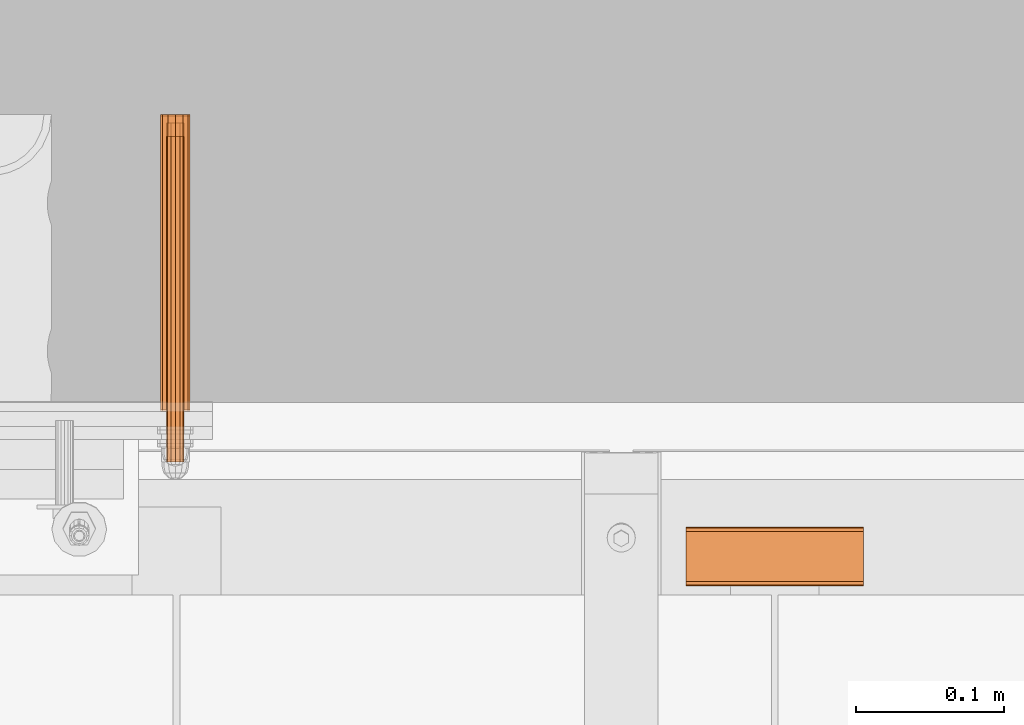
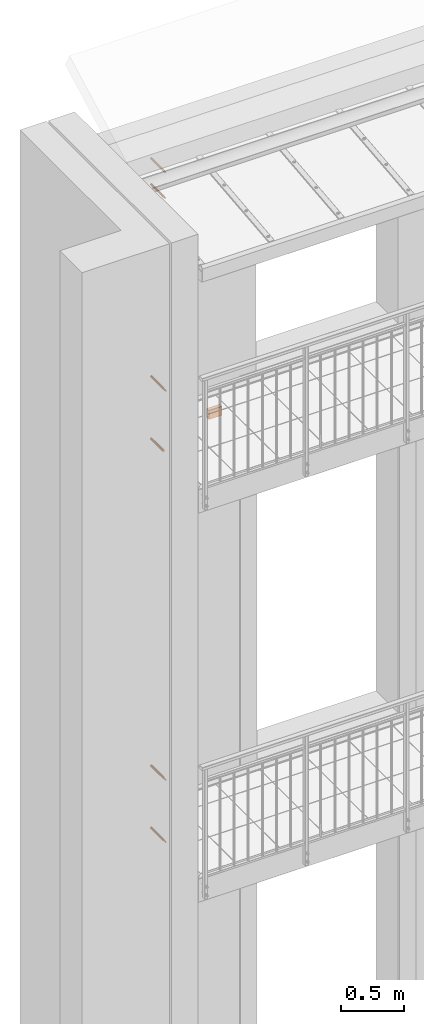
# One storey, part 95 of 162: 12 proxies.
"""IFC2X3 building model written with IfcOpenShell, lengths in millimetres."""

from ifc_helpers import new_model, entity, si_unit, converted_unit, origin_with_axes, place, context, project, spatial, faceted_brep, material, element, save


model = new_model("IFC2X3")

# Units and contexts
model_context = context("Model", 3, precision=1e-09, world=origin_with_axes())
ifc_project = project(units=[si_unit("LENGTHUNIT", "METRE", prefix="MILLI"), si_unit("AREAUNIT", "SQUARE_METRE"), si_unit("VOLUMEUNIT", "CUBIC_METRE"), converted_unit("PLANEANGLEUNIT", "DEGREE", entity("IfcPlaneAngleMeasure", 0.01745329), si_unit("PLANEANGLEUNIT", "RADIAN"), dimensions=[0, 0, 0, 0, 0, 0, 0])], contexts=[model_context])

# Site, building, storey
site_placement = place(None, origin_with_axes())
site = spatial("IfcSite", under=ifc_project, at=site_placement, Name="Hermannstra?e 1a, 60318 Frankfurt", CompositionType="ELEMENT")
building_placement = place(site_placement, origin_with_axes())
building = spatial("IfcBuilding", under=site, at=building_placement, Name="Struktur 1", CompositionType="ELEMENT")
storey_placement = place(building_placement, origin_with_axes())
storey = spatial("IfcBuildingStorey", under=building, at=storey_placement, Name="Default Storey", CompositionType="ELEMENT", Elevation=0.0)

# Proxies
ifc_material_1 = material(Name="Alu")
proxy_1_placement = place(None, origin_with_axes())
element("IfcBuildingElementProxy", 1, at=proxy_1_placement, inside=storey, material=ifc_material_1, ObjectType="-", context=model_context, shape_type="Brep", body=[
    faceted_brep([(3393.55936482, 2612.413221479, 15014.999), (3393.55936482, 2614.609373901, 15012.802847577), (3393.55936482, 2617.609373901, 15011.999), (3393.55936482, 2645.609373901, 15011.999), (3393.55936482, 2648.609373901, 15012.802847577), (3393.55936482, 2650.805526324, 15014.999), (3393.55936482, 2651.609373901, 15017.999), (3393.55936482, 2651.609373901, 15095.999), (3393.55936482, 2650.805526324, 15098.999), (3393.55936482, 2648.609373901, 15101.195152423), (3393.55936482, 2645.609373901, 15101.999), (3393.55936482, 2617.609373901, 15101.999), (3393.55936482, 2614.609373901, 15101.195152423), (3393.55936482, 2612.413221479, 15098.999), (3393.55936482, 2611.609373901, 15095.999), (3393.55936482, 2611.609373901, 15017.999), (3393.55936482, 2614.609373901, 15017.999), (3393.55936482, 2614.609373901, 15095.999), (3393.55936482, 2615.01129769, 15097.499), (3393.55936482, 2616.109373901, 15098.597076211), (3393.55936482, 2617.609373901, 15098.999), (3393.55936482, 2645.609373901, 15098.999), (3393.55936482, 2647.109373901, 15098.597076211), (3393.55936482, 2648.207450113, 15097.499), (3393.55936482, 2648.609373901, 15095.999), (3393.55936482, 2648.609373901, 15017.999), (3393.55936482, 2648.207450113, 15016.499), (3393.55936482, 2647.109373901, 15015.400923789), (3393.55936482, 2645.609373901, 15014.999), (3393.55936482, 2617.609373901, 15014.999), (3393.55936482, 2616.109373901, 15015.400923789), (3393.55936482, 2615.01129769, 15016.499), (3273.55936482, 2614.609373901, 15017.999), (3273.55936482, 2615.01129769, 15016.499), (3273.55936482, 2611.609373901, 15017.999), (3273.55936482, 2612.413221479, 15014.999), (3273.55936482, 2611.609373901, 15095.999), (3273.55936482, 2612.413221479, 15098.999), (3273.55936482, 2614.609373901, 15101.195152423), (3273.55936482, 2617.609373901, 15101.999), (3273.55936482, 2645.609373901, 15101.999), (3273.55936482, 2648.609373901, 15101.195152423), (3273.55936482, 2650.805526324, 15098.999), (3273.55936482, 2651.609373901, 15095.999), (3273.55936482, 2651.609373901, 15017.999), (3273.55936482, 2650.805526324, 15014.999), (3273.55936482, 2648.609373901, 15012.802847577), (3273.55936482, 2645.609373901, 15011.999), (3273.55936482, 2617.609373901, 15011.999), (3273.55936482, 2614.609373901, 15012.802847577), (3273.55936482, 2614.609373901, 15095.999), (3273.55936482, 2616.109373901, 15015.400923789), (3273.55936482, 2617.609373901, 15014.999), (3273.55936482, 2645.609373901, 15014.999), (3273.55936482, 2647.109373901, 15015.400923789), (3273.55936482, 2648.207450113, 15016.499), (3273.55936482, 2648.609373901, 15017.999), (3273.55936482, 2648.609373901, 15095.999), (3273.55936482, 2648.207450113, 15097.499), (3273.55936482, 2647.109373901, 15098.597076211), (3273.55936482, 2645.609373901, 15098.999), (3273.55936482, 2617.609373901, 15098.999), (3273.55936482, 2616.109373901, 15098.597076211), (3273.55936482, 2615.01129769, 15097.499)], [[[0, 1, 2, 3, 4, 5, 6, 7, 8, 9, 10, 11, 12, 13, 14, 15], [16, 17, 18, 19, 20, 21, 22, 23, 24, 25, 26, 27, 28, 29, 30, 31]], [[32, 16, 31, 33]], [[15, 34, 35, 0]], [[36, 37, 38, 39, 40, 41, 42, 43, 44, 45, 46, 47, 48, 49, 35, 34], [50, 32, 33, 51, 52, 53, 54, 55, 56, 57, 58, 59, 60, 61, 62, 63]], [[17, 16, 32, 50]], [[36, 34, 15, 14]], [[36, 14, 13, 37]], [[33, 31, 30, 51]], [[0, 35, 49, 1]], [[17, 50, 63, 18]], [[37, 13, 12, 38]], [[51, 30, 29, 52]], [[1, 49, 48, 2]], [[18, 63, 62, 19]], [[38, 12, 11, 39]], [[53, 52, 29, 28]], [[3, 2, 48, 47]], [[19, 62, 61, 20]], [[40, 39, 11, 10]], [[21, 20, 61, 60]], [[53, 28, 27, 54]], [[3, 47, 46, 4]], [[40, 10, 9, 41]], [[21, 60, 59, 22]], [[54, 27, 26, 55]], [[4, 46, 45, 5]], [[44, 6, 5, 45]], [[41, 9, 8, 42]], [[22, 59, 58, 23]], [[55, 26, 25, 56]], [[7, 6, 44, 43]], [[57, 24, 23, 58]], [[25, 24, 57, 56]], [[42, 8, 7, 43]]]),
])
ifc_material_2 = material(Name="A4")
proxy_2_placement = place(None, origin_with_axes())
element("IfcBuildingElementProxy", 2, at=proxy_2_placement, inside=storey, material=ifc_material_2, ObjectType="-", context=model_context, shape_type="Brep", body=[
    faceted_brep([(2928.309364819, 2924.609373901, 17460.999), (2928.309364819, 2704.609373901, 17460.999), (2925.309364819, 2704.609373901, 17461.802847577), (2925.309364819, 2924.609373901, 17461.802847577), (2931.309364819, 2924.609373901, 17461.802847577), (2931.309364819, 2704.609373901, 17461.802847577), (2933.505517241, 2704.609373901, 17469.999), (2931.309364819, 2704.609373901, 17472.195152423), (2928.309364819, 2704.609373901, 17472.999), (2925.309364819, 2704.609373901, 17472.195152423), (2923.113212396, 2704.609373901, 17469.999), (2922.309364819, 2704.609373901, 17466.999), (2923.113212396, 2704.609373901, 17463.999), (2933.505517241, 2704.609373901, 17463.999), (2934.309364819, 2704.609373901, 17466.999), (2923.113212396, 2924.609373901, 17469.999), (2925.309364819, 2924.609373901, 17472.195152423), (2928.309364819, 2924.609373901, 17472.999), (2931.309364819, 2924.609373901, 17472.195152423), (2933.505517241, 2924.609373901, 17469.999), (2934.309364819, 2924.609373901, 17466.999), (2933.505517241, 2924.609373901, 17463.999), (2923.113212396, 2924.609373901, 17463.999), (2922.309364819, 2924.609373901, 17466.999)], [[[0, 1, 2, 3]], [[1, 0, 4, 5]], [[6, 7, 8, 9, 10, 11, 12, 2, 1, 5, 13, 14]], [[15, 16, 17, 18, 19, 20, 21, 4, 0, 3, 22, 23]], [[3, 2, 12, 22]], [[5, 4, 21, 13]], [[11, 23, 22, 12]], [[10, 15, 23, 11]], [[13, 21, 20, 14]], [[16, 9, 8, 17]], [[15, 10, 9, 16]], [[17, 8, 7, 18]], [[14, 20, 19, 6]], [[18, 7, 6, 19]]]),
])
ifc_material_3 = material(Name="Kunststoff")
proxy_3_placement = place(None, origin_with_axes())
element("IfcBuildingElementProxy", 3, at=proxy_3_placement, inside=storey, material=ifc_material_3, ObjectType="-", context=model_context, shape_type="Brep", body=[
    faceted_brep([(2919.649110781, 2929.609373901, 17471.999), (2923.309364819, 2929.609373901, 17475.659254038), (2928.309364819, 2929.609373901, 17476.999), (2933.309364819, 2929.609373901, 17475.659254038), (2936.969618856, 2929.609373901, 17471.999), (2938.309364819, 2929.609373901, 17466.999), (2936.969618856, 2929.609373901, 17461.999), (2933.309364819, 2929.609373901, 17458.338745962), (2928.309364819, 2929.609373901, 17456.999), (2923.309364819, 2929.609373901, 17458.338745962), (2919.649110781, 2929.609373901, 17461.999), (2918.309364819, 2929.609373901, 17466.999), (2928.309364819, 2729.609373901, 17456.999), (2923.309364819, 2729.609373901, 17458.338745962), (2933.309364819, 2729.609373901, 17458.338745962), (2936.969618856, 2729.609373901, 17461.999), (2936.969618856, 2729.609373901, 17471.999), (2933.309364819, 2729.609373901, 17475.659254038), (2938.309364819, 2729.609373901, 17466.999), (2928.309364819, 2729.609373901, 17476.999), (2923.309364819, 2729.609373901, 17475.659254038), (2919.649110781, 2729.609373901, 17471.999), (2918.309364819, 2729.609373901, 17466.999), (2919.649110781, 2729.609373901, 17461.999), (2932.559364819, 2729.609373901, 17474.360215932), (2935.670580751, 2729.609373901, 17471.249), (2936.809364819, 2729.609373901, 17466.999), (2935.670580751, 2729.609373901, 17462.749), (2932.559364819, 2729.609373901, 17459.637784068), (2928.309364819, 2729.609373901, 17458.499), (2924.059364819, 2729.609373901, 17459.637784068), (2920.948148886, 2729.609373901, 17462.749), (2919.809364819, 2729.609373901, 17466.999), (2920.948148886, 2729.609373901, 17471.249), (2924.059364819, 2729.609373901, 17474.360215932), (2928.309364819, 2729.609373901, 17475.499), (2932.559364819, 2927.609373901, 17474.360215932), (2928.309364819, 2927.609373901, 17475.499), (2935.670580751, 2927.609373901, 17471.249), (2928.309364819, 2927.609373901, 17458.499), (2924.059364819, 2927.609373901, 17459.637784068), (2932.559364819, 2927.609373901, 17459.637784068), (2920.948148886, 2927.609373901, 17462.749), (2935.670580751, 2927.609373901, 17462.749), (2936.809364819, 2927.609373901, 17466.999), (2924.059364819, 2927.609373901, 17474.360215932), (2920.948148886, 2927.609373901, 17471.249), (2919.809364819, 2927.609373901, 17466.999)], [[[0, 1, 2, 3, 4, 5, 6, 7, 8, 9, 10, 11]], [[8, 12, 13, 9]], [[7, 14, 12, 8]], [[6, 15, 14, 7]], [[16, 4, 3, 17]], [[5, 18, 15, 6]], [[17, 3, 2, 19]], [[18, 16, 17, 19, 20, 21, 22, 23, 13, 12, 14, 15], [24, 25, 26, 27, 28, 29, 30, 31, 32, 33, 34, 35]], [[18, 5, 4, 16]], [[9, 13, 23, 10]], [[19, 2, 1, 20]], [[36, 24, 35, 37]], [[24, 36, 38, 25]], [[29, 39, 40, 30]], [[39, 29, 28, 41]], [[42, 40, 39, 41, 43, 44, 38, 36, 37, 45, 46, 47]], [[10, 23, 22, 11]], [[20, 1, 0, 21]], [[37, 35, 34, 45]], [[27, 43, 41, 28]], [[26, 44, 43, 27]], [[25, 38, 44, 26]], [[11, 22, 21, 0]], [[30, 40, 42, 31]], [[45, 34, 33, 46]], [[31, 42, 47, 32]], [[46, 33, 32, 47]]]),
])
proxy_4_placement = place(None, origin_with_axes())
element("IfcBuildingElementProxy", 4, at=proxy_4_placement, inside=storey, material=ifc_material_2, ObjectType="-", context=model_context, shape_type="Brep", body=[
    faceted_brep([(2928.309364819, 2704.609373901, 17222.999), (2928.309364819, 2924.609373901, 17222.999), (2925.309364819, 2924.609373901, 17222.195152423), (2925.309364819, 2704.609373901, 17222.195152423), (2931.309364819, 2704.609373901, 17222.195152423), (2931.309364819, 2924.609373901, 17222.195152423), (2931.309364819, 2704.609373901, 17211.802847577), (2933.505517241, 2704.609373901, 17213.999), (2934.309364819, 2704.609373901, 17216.999), (2933.505517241, 2704.609373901, 17219.999), (2923.113212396, 2704.609373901, 17219.999), (2922.309364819, 2704.609373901, 17216.999), (2923.113212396, 2704.609373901, 17213.999), (2925.309364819, 2704.609373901, 17211.802847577), (2928.309364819, 2704.609373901, 17210.999), (2925.309364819, 2924.609373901, 17211.802847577), (2923.113212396, 2924.609373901, 17213.999), (2922.309364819, 2924.609373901, 17216.999), (2923.113212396, 2924.609373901, 17219.999), (2933.505517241, 2924.609373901, 17219.999), (2934.309364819, 2924.609373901, 17216.999), (2933.505517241, 2924.609373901, 17213.999), (2931.309364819, 2924.609373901, 17211.802847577), (2928.309364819, 2924.609373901, 17210.999)], [[[0, 1, 2, 3]], [[1, 0, 4, 5]], [[6, 7, 8, 9, 4, 0, 3, 10, 11, 12, 13, 14]], [[15, 16, 17, 18, 2, 1, 5, 19, 20, 21, 22, 23]], [[3, 2, 18, 10]], [[5, 4, 9, 19]], [[17, 11, 10, 18]], [[16, 12, 11, 17]], [[19, 9, 8, 20]], [[13, 15, 23, 14]], [[12, 16, 15, 13]], [[14, 23, 22, 6]], [[20, 8, 7, 21]], [[6, 22, 21, 7]]]),
])
proxy_5_placement = place(None, origin_with_axes())
element("IfcBuildingElementProxy", 5, at=proxy_5_placement, inside=storey, material=ifc_material_3, ObjectType="-", context=model_context, shape_type="Brep", body=[
    faceted_brep([(2923.309364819, 2929.609373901, 17208.338745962), (2919.649110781, 2929.609373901, 17211.999), (2918.309364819, 2929.609373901, 17216.999), (2919.649110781, 2929.609373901, 17221.999), (2923.309364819, 2929.609373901, 17225.659254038), (2928.309364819, 2929.609373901, 17226.999), (2933.309364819, 2929.609373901, 17225.659254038), (2936.969618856, 2929.609373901, 17221.999), (2938.309364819, 2929.609373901, 17216.999), (2936.969618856, 2929.609373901, 17211.999), (2933.309364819, 2929.609373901, 17208.338745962), (2928.309364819, 2929.609373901, 17206.999), (2928.309364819, 2729.609373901, 17226.999), (2923.309364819, 2729.609373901, 17225.659254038), (2933.309364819, 2729.609373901, 17225.659254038), (2936.969618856, 2729.609373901, 17221.999), (2936.969618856, 2729.609373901, 17211.999), (2933.309364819, 2729.609373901, 17208.338745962), (2938.309364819, 2729.609373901, 17216.999), (2928.309364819, 2729.609373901, 17206.999), (2919.649110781, 2729.609373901, 17221.999), (2918.309364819, 2729.609373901, 17216.999), (2919.649110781, 2729.609373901, 17211.999), (2923.309364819, 2729.609373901, 17208.338745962), (2932.559364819, 2729.609373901, 17209.637784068), (2932.559364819, 2927.609373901, 17209.637784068), (2928.309364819, 2927.609373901, 17208.499), (2928.309364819, 2729.609373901, 17208.499), (2935.670580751, 2729.609373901, 17212.749), (2935.670580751, 2927.609373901, 17212.749), (2928.309364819, 2927.609373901, 17225.499), (2928.309364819, 2729.609373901, 17225.499), (2924.059364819, 2729.609373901, 17224.360215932), (2924.059364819, 2927.609373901, 17224.360215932), (2932.559364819, 2927.609373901, 17224.360215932), (2932.559364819, 2729.609373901, 17224.360215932), (2920.948148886, 2927.609373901, 17221.249), (2919.809364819, 2927.609373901, 17216.999), (2920.948148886, 2927.609373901, 17212.749), (2924.059364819, 2927.609373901, 17209.637784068), (2936.809364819, 2927.609373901, 17216.999), (2935.670580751, 2927.609373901, 17221.249), (2924.059364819, 2729.609373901, 17209.637784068), (2935.670580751, 2729.609373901, 17221.249), (2936.809364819, 2729.609373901, 17216.999), (2920.948148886, 2729.609373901, 17221.249), (2920.948148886, 2729.609373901, 17212.749), (2919.809364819, 2729.609373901, 17216.999)], [[[0, 1, 2, 3, 4, 5, 6, 7, 8, 9, 10, 11]], [[12, 5, 4, 13]], [[14, 6, 5, 12]], [[15, 7, 6, 14]], [[9, 16, 17, 10]], [[18, 8, 7, 15]], [[10, 17, 19, 11]], [[16, 18, 15, 14, 12, 13, 20, 21, 22, 23, 19, 17]], [[8, 18, 16, 9]], [[13, 4, 3, 20]], [[11, 19, 23, 0]], [[24, 25, 26, 27]], [[25, 24, 28, 29]], [[30, 31, 32, 33]], [[31, 30, 34, 35]], [[33, 36, 37, 38, 39, 26, 25, 29, 40, 41, 34, 30]], [[20, 3, 2, 21]], [[0, 23, 22, 1]], [[27, 26, 39, 42]], [[41, 43, 35, 34]], [[40, 44, 43, 41]], [[29, 28, 44, 40]], [[21, 2, 1, 22]], [[33, 32, 45, 36]], [[42, 39, 38, 46]], [[36, 45, 47, 37]], [[46, 38, 37, 47]]]),
])
proxy_6_placement = place(None, origin_with_axes())
element("IfcBuildingElementProxy", 6, at=proxy_6_placement, inside=storey, material=ifc_material_3, ObjectType="-", context=model_context, shape_type="Brep", body=[
    faceted_brep([(2923.309364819, 2930.609373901, 10996.338745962), (2919.649110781, 2930.609373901, 10999.999), (2918.309364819, 2930.609373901, 11004.999), (2919.649110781, 2930.609373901, 11009.999), (2923.309364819, 2930.609373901, 11013.659254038), (2928.309364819, 2930.609373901, 11014.999), (2933.309364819, 2930.609373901, 11013.659254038), (2936.969618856, 2930.609373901, 11009.999), (2938.309364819, 2930.609373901, 11004.999), (2936.969618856, 2930.609373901, 10999.999), (2933.309364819, 2930.609373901, 10996.338745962), (2928.309364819, 2930.609373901, 10994.999), (2928.309364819, 2730.609373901, 11014.999), (2923.309364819, 2730.609373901, 11013.659254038), (2933.309364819, 2730.609373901, 11013.659254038), (2936.969618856, 2730.609373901, 11009.999), (2936.969618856, 2730.609373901, 10999.999), (2933.309364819, 2730.609373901, 10996.338745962), (2938.309364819, 2730.609373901, 11004.999), (2928.309364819, 2730.609373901, 10994.999), (2919.649110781, 2730.609373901, 11009.999), (2918.309364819, 2730.609373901, 11004.999), (2919.649110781, 2730.609373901, 10999.999), (2923.309364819, 2730.609373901, 10996.338745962), (2932.559364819, 2730.609373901, 10997.637784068), (2932.559364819, 2928.609373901, 10997.637784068), (2928.309364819, 2928.609373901, 10996.499), (2928.309364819, 2730.609373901, 10996.499), (2935.670580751, 2730.609373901, 11000.749), (2935.670580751, 2928.609373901, 11000.749), (2928.309364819, 2928.609373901, 11013.499), (2928.309364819, 2730.609373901, 11013.499), (2924.059364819, 2730.609373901, 11012.360215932), (2924.059364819, 2928.609373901, 11012.360215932), (2932.559364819, 2928.609373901, 11012.360215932), (2932.559364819, 2730.609373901, 11012.360215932), (2920.948148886, 2928.609373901, 11009.249), (2919.809364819, 2928.609373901, 11004.999), (2920.948148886, 2928.609373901, 11000.749), (2924.059364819, 2928.609373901, 10997.637784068), (2936.809364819, 2928.609373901, 11004.999), (2935.670580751, 2928.609373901, 11009.249), (2924.059364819, 2730.609373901, 10997.637784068), (2935.670580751, 2730.609373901, 11009.249), (2936.809364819, 2730.609373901, 11004.999), (2920.948148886, 2730.609373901, 11009.249), (2920.948148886, 2730.609373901, 11000.749), (2919.809364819, 2730.609373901, 11004.999)], [[[0, 1, 2, 3, 4, 5, 6, 7, 8, 9, 10, 11]], [[12, 5, 4, 13]], [[14, 6, 5, 12]], [[15, 7, 6, 14]], [[9, 16, 17, 10]], [[18, 8, 7, 15]], [[10, 17, 19, 11]], [[16, 18, 15, 14, 12, 13, 20, 21, 22, 23, 19, 17]], [[8, 18, 16, 9]], [[13, 4, 3, 20]], [[11, 19, 23, 0]], [[24, 25, 26, 27]], [[25, 24, 28, 29]], [[30, 31, 32, 33]], [[31, 30, 34, 35]], [[33, 36, 37, 38, 39, 26, 25, 29, 40, 41, 34, 30]], [[20, 3, 2, 21]], [[0, 23, 22, 1]], [[27, 26, 39, 42]], [[41, 43, 35, 34]], [[40, 44, 43, 41]], [[29, 28, 44, 40]], [[21, 2, 1, 22]], [[33, 32, 45, 36]], [[42, 39, 38, 46]], [[36, 45, 47, 37]], [[46, 38, 37, 47]]]),
])
proxy_7_placement = place(None, origin_with_axes())
element("IfcBuildingElementProxy", 7, at=proxy_7_placement, inside=storey, material=ifc_material_2, ObjectType="-", context=model_context, shape_type="Brep", body=[
    faceted_brep([(2928.309364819, 2695.609373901, 11010.999), (2928.309364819, 2915.609373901, 11010.999), (2925.309364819, 2915.609373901, 11010.195152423), (2925.309364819, 2695.609373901, 11010.195152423), (2931.309364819, 2695.609373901, 11010.195152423), (2931.309364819, 2915.609373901, 11010.195152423), (2931.309364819, 2695.609373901, 10999.802847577), (2933.505517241, 2695.609373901, 11001.999), (2934.309364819, 2695.609373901, 11004.999), (2933.505517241, 2695.609373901, 11007.999), (2923.113212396, 2695.609373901, 11007.999), (2922.309364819, 2695.609373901, 11004.999), (2923.113212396, 2695.609373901, 11001.999), (2925.309364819, 2695.609373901, 10999.802847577), (2928.309364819, 2695.609373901, 10998.999), (2925.309364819, 2915.609373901, 10999.802847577), (2923.113212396, 2915.609373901, 11001.999), (2922.309364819, 2915.609373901, 11004.999), (2923.113212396, 2915.609373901, 11007.999), (2933.505517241, 2915.609373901, 11007.999), (2934.309364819, 2915.609373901, 11004.999), (2933.505517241, 2915.609373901, 11001.999), (2931.309364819, 2915.609373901, 10999.802847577), (2928.309364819, 2915.609373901, 10998.999)], [[[0, 1, 2, 3]], [[1, 0, 4, 5]], [[6, 7, 8, 9, 4, 0, 3, 10, 11, 12, 13, 14]], [[15, 16, 17, 18, 2, 1, 5, 19, 20, 21, 22, 23]], [[3, 2, 18, 10]], [[5, 4, 9, 19]], [[17, 11, 10, 18]], [[16, 12, 11, 17]], [[19, 9, 8, 20]], [[13, 15, 23, 14]], [[12, 16, 15, 13]], [[14, 23, 22, 6]], [[20, 8, 7, 21]], [[6, 22, 21, 7]]]),
])
proxy_8_placement = place(None, origin_with_axes())
element("IfcBuildingElementProxy", 8, at=proxy_8_placement, inside=storey, material=ifc_material_2, ObjectType="-", context=model_context, shape_type="Brep", body=[
    faceted_brep([(2928.309364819, 2915.609373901, 11598.999), (2928.309364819, 2695.609373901, 11598.999), (2925.309364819, 2695.609373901, 11599.802847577), (2925.309364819, 2915.609373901, 11599.802847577), (2931.309364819, 2915.609373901, 11599.802847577), (2931.309364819, 2695.609373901, 11599.802847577), (2933.505517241, 2695.609373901, 11607.999), (2931.309364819, 2695.609373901, 11610.195152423), (2928.309364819, 2695.609373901, 11610.999), (2925.309364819, 2695.609373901, 11610.195152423), (2923.113212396, 2695.609373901, 11607.999), (2922.309364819, 2695.609373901, 11604.999), (2923.113212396, 2695.609373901, 11601.999), (2933.505517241, 2695.609373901, 11601.999), (2934.309364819, 2695.609373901, 11604.999), (2923.113212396, 2915.609373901, 11607.999), (2925.309364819, 2915.609373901, 11610.195152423), (2928.309364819, 2915.609373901, 11610.999), (2931.309364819, 2915.609373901, 11610.195152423), (2933.505517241, 2915.609373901, 11607.999), (2934.309364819, 2915.609373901, 11604.999), (2933.505517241, 2915.609373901, 11601.999), (2923.113212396, 2915.609373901, 11601.999), (2922.309364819, 2915.609373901, 11604.999)], [[[0, 1, 2, 3]], [[1, 0, 4, 5]], [[6, 7, 8, 9, 10, 11, 12, 2, 1, 5, 13, 14]], [[15, 16, 17, 18, 19, 20, 21, 4, 0, 3, 22, 23]], [[3, 2, 12, 22]], [[5, 4, 21, 13]], [[11, 23, 22, 12]], [[10, 15, 23, 11]], [[13, 21, 20, 14]], [[16, 9, 8, 17]], [[15, 10, 9, 16]], [[17, 8, 7, 18]], [[14, 20, 19, 6]], [[18, 7, 6, 19]]]),
])
proxy_9_placement = place(None, origin_with_axes())
element("IfcBuildingElementProxy", 9, at=proxy_9_placement, inside=storey, material=ifc_material_3, ObjectType="-", context=model_context, shape_type="Brep", body=[
    faceted_brep([(2919.649110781, 2930.609373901, 11609.999), (2923.309364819, 2930.609373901, 11613.659254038), (2928.309364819, 2930.609373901, 11614.999), (2933.309364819, 2930.609373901, 11613.659254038), (2936.969618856, 2930.609373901, 11609.999), (2938.309364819, 2930.609373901, 11604.999), (2936.969618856, 2930.609373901, 11599.999), (2933.309364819, 2930.609373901, 11596.338745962), (2928.309364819, 2930.609373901, 11594.999), (2923.309364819, 2930.609373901, 11596.338745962), (2919.649110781, 2930.609373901, 11599.999), (2918.309364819, 2930.609373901, 11604.999), (2928.309364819, 2730.609373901, 11594.999), (2923.309364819, 2730.609373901, 11596.338745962), (2933.309364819, 2730.609373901, 11596.338745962), (2936.969618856, 2730.609373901, 11599.999), (2936.969618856, 2730.609373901, 11609.999), (2933.309364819, 2730.609373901, 11613.659254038), (2938.309364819, 2730.609373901, 11604.999), (2928.309364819, 2730.609373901, 11614.999), (2923.309364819, 2730.609373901, 11613.659254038), (2919.649110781, 2730.609373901, 11609.999), (2918.309364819, 2730.609373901, 11604.999), (2919.649110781, 2730.609373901, 11599.999), (2932.559364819, 2730.609373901, 11612.360215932), (2935.670580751, 2730.609373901, 11609.249), (2936.809364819, 2730.609373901, 11604.999), (2935.670580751, 2730.609373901, 11600.749), (2932.559364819, 2730.609373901, 11597.637784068), (2928.309364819, 2730.609373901, 11596.499), (2924.059364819, 2730.609373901, 11597.637784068), (2920.948148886, 2730.609373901, 11600.749), (2919.809364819, 2730.609373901, 11604.999), (2920.948148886, 2730.609373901, 11609.249), (2924.059364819, 2730.609373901, 11612.360215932), (2928.309364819, 2730.609373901, 11613.499), (2932.559364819, 2928.609373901, 11612.360215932), (2928.309364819, 2928.609373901, 11613.499), (2935.670580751, 2928.609373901, 11609.249), (2928.309364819, 2928.609373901, 11596.499), (2924.059364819, 2928.609373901, 11597.637784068), (2932.559364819, 2928.609373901, 11597.637784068), (2920.948148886, 2928.609373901, 11600.749), (2935.670580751, 2928.609373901, 11600.749), (2936.809364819, 2928.609373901, 11604.999), (2924.059364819, 2928.609373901, 11612.360215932), (2920.948148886, 2928.609373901, 11609.249), (2919.809364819, 2928.609373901, 11604.999)], [[[0, 1, 2, 3, 4, 5, 6, 7, 8, 9, 10, 11]], [[8, 12, 13, 9]], [[7, 14, 12, 8]], [[6, 15, 14, 7]], [[16, 4, 3, 17]], [[5, 18, 15, 6]], [[17, 3, 2, 19]], [[18, 16, 17, 19, 20, 21, 22, 23, 13, 12, 14, 15], [24, 25, 26, 27, 28, 29, 30, 31, 32, 33, 34, 35]], [[18, 5, 4, 16]], [[9, 13, 23, 10]], [[19, 2, 1, 20]], [[36, 24, 35, 37]], [[24, 36, 38, 25]], [[29, 39, 40, 30]], [[39, 29, 28, 41]], [[42, 40, 39, 41, 43, 44, 38, 36, 37, 45, 46, 47]], [[10, 23, 22, 11]], [[20, 1, 0, 21]], [[37, 35, 34, 45]], [[27, 43, 41, 28]], [[26, 44, 43, 27]], [[25, 38, 44, 26]], [[11, 22, 21, 0]], [[30, 40, 42, 31]], [[45, 34, 33, 46]], [[31, 42, 47, 32]], [[46, 33, 32, 47]]]),
])
proxy_10_placement = place(None, origin_with_axes())
element("IfcBuildingElementProxy", 10, at=proxy_10_placement, inside=storey, material=ifc_material_2, ObjectType="-", context=model_context, shape_type="Brep", body=[
    faceted_brep([(2928.310071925, 2915.610081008, 15355.999), (2928.310071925, 2695.610081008, 15355.999), (2925.310071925, 2695.610081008, 15356.802847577), (2925.310071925, 2915.610081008, 15356.802847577), (2931.310071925, 2915.610081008, 15356.802847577), (2931.310071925, 2695.610081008, 15356.802847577), (2933.506224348, 2695.610081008, 15364.999), (2931.310071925, 2695.610081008, 15367.195152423), (2928.310071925, 2695.610081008, 15367.999), (2925.310071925, 2695.610081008, 15367.195152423), (2923.113919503, 2695.610081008, 15364.999), (2922.310071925, 2695.610081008, 15361.999), (2923.113919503, 2695.610081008, 15358.999), (2933.506224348, 2695.610081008, 15358.999), (2934.310071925, 2695.610081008, 15361.999), (2923.113919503, 2915.610081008, 15364.999), (2925.310071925, 2915.610081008, 15367.195152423), (2928.310071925, 2915.610081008, 15367.999), (2931.310071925, 2915.610081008, 15367.195152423), (2933.506224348, 2915.610081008, 15364.999), (2934.310071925, 2915.610081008, 15361.999), (2933.506224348, 2915.610081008, 15358.999), (2923.113919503, 2915.610081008, 15358.999), (2922.310071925, 2915.610081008, 15361.999)], [[[0, 1, 2, 3]], [[1, 0, 4, 5]], [[6, 7, 8, 9, 10, 11, 12, 2, 1, 5, 13, 14]], [[15, 16, 17, 18, 19, 20, 21, 4, 0, 3, 22, 23]], [[3, 2, 12, 22]], [[5, 4, 21, 13]], [[11, 23, 22, 12]], [[10, 15, 23, 11]], [[13, 21, 20, 14]], [[16, 9, 8, 17]], [[15, 10, 9, 16]], [[17, 8, 7, 18]], [[14, 20, 19, 6]], [[18, 7, 6, 19]]]),
])
proxy_11_placement = place(None, origin_with_axes())
element("IfcBuildingElementProxy", 11, at=proxy_11_placement, inside=storey, material=ifc_material_3, ObjectType="-", context=model_context, shape_type="Brep", body=[
    faceted_brep([(2919.649817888, 2930.610081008, 15366.999), (2923.310071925, 2930.610081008, 15370.659254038), (2928.310071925, 2930.610081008, 15371.999), (2933.310071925, 2930.610081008, 15370.659254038), (2936.970325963, 2930.610081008, 15366.999), (2938.310071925, 2930.610081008, 15361.999), (2936.970325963, 2930.610081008, 15356.999), (2933.310071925, 2930.610081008, 15353.338745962), (2928.310071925, 2930.610081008, 15351.999), (2923.310071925, 2930.610081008, 15353.338745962), (2919.649817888, 2930.610081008, 15356.999), (2918.310071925, 2930.610081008, 15361.999), (2928.310071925, 2730.610081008, 15351.999), (2923.310071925, 2730.610081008, 15353.338745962), (2933.310071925, 2730.610081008, 15353.338745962), (2936.970325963, 2730.610081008, 15356.999), (2936.970325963, 2730.610081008, 15366.999), (2933.310071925, 2730.610081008, 15370.659254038), (2938.310071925, 2730.610081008, 15361.999), (2928.310071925, 2730.610081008, 15371.999), (2923.310071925, 2730.610081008, 15370.659254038), (2919.649817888, 2730.610081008, 15366.999), (2918.310071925, 2730.610081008, 15361.999), (2919.649817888, 2730.610081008, 15356.999), (2932.560071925, 2730.610081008, 15369.360215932), (2935.671287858, 2730.610081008, 15366.249), (2936.810071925, 2730.610081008, 15361.999), (2935.671287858, 2730.610081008, 15357.749), (2932.560071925, 2730.610081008, 15354.637784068), (2928.310071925, 2730.610081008, 15353.499), (2924.060071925, 2730.610081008, 15354.637784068), (2920.948855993, 2730.610081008, 15357.749), (2919.810071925, 2730.610081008, 15361.999), (2920.948855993, 2730.610081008, 15366.249), (2924.060071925, 2730.610081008, 15369.360215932), (2928.310071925, 2730.610081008, 15370.499), (2932.560071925, 2928.610081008, 15369.360215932), (2928.310071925, 2928.610081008, 15370.499), (2935.671287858, 2928.610081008, 15366.249), (2928.310071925, 2928.610081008, 15353.499), (2924.060071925, 2928.610081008, 15354.637784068), (2932.560071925, 2928.610081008, 15354.637784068), (2920.948855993, 2928.610081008, 15357.749), (2935.671287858, 2928.610081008, 15357.749), (2936.810071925, 2928.610081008, 15361.999), (2924.060071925, 2928.610081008, 15369.360215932), (2920.948855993, 2928.610081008, 15366.249), (2919.810071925, 2928.610081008, 15361.999)], [[[0, 1, 2, 3, 4, 5, 6, 7, 8, 9, 10, 11]], [[8, 12, 13, 9]], [[7, 14, 12, 8]], [[6, 15, 14, 7]], [[16, 4, 3, 17]], [[5, 18, 15, 6]], [[17, 3, 2, 19]], [[18, 16, 17, 19, 20, 21, 22, 23, 13, 12, 14, 15], [24, 25, 26, 27, 28, 29, 30, 31, 32, 33, 34, 35]], [[18, 5, 4, 16]], [[9, 13, 23, 10]], [[19, 2, 1, 20]], [[36, 24, 35, 37]], [[24, 36, 38, 25]], [[29, 39, 40, 30]], [[39, 29, 28, 41]], [[42, 40, 39, 41, 43, 44, 38, 36, 37, 45, 46, 47]], [[10, 23, 22, 11]], [[20, 1, 0, 21]], [[37, 35, 34, 45]], [[27, 43, 41, 28]], [[26, 44, 43, 27]], [[25, 38, 44, 26]], [[11, 22, 21, 0]], [[30, 40, 42, 31]], [[45, 34, 33, 46]], [[31, 42, 47, 32]], [[46, 33, 32, 47]]]),
])
proxy_12_placement = place(None, origin_with_axes())
element("IfcBuildingElementProxy", 12, at=proxy_12_placement, inside=storey, material=ifc_material_3, ObjectType="-", context=model_context, shape_type="Brep", body=[
    faceted_brep([(2923.310071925, 2930.610081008, 14753.338745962), (2919.649817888, 2930.610081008, 14756.999), (2918.310071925, 2930.610081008, 14761.999), (2919.649817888, 2930.610081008, 14766.999), (2923.310071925, 2930.610081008, 14770.659254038), (2928.310071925, 2930.610081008, 14771.999), (2933.310071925, 2930.610081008, 14770.659254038), (2936.970325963, 2930.610081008, 14766.999), (2938.310071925, 2930.610081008, 14761.999), (2936.970325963, 2930.610081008, 14756.999), (2933.310071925, 2930.610081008, 14753.338745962), (2928.310071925, 2930.610081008, 14751.999), (2928.310071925, 2730.610081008, 14771.999), (2923.310071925, 2730.610081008, 14770.659254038), (2933.310071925, 2730.610081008, 14770.659254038), (2936.970325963, 2730.610081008, 14766.999), (2936.970325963, 2730.610081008, 14756.999), (2933.310071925, 2730.610081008, 14753.338745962), (2938.310071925, 2730.610081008, 14761.999), (2928.310071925, 2730.610081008, 14751.999), (2919.649817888, 2730.610081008, 14766.999), (2918.310071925, 2730.610081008, 14761.999), (2919.649817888, 2730.610081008, 14756.999), (2923.310071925, 2730.610081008, 14753.338745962), (2932.560071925, 2730.610081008, 14754.637784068), (2932.560071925, 2928.610081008, 14754.637784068), (2928.310071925, 2928.610081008, 14753.499), (2928.310071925, 2730.610081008, 14753.499), (2935.671287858, 2730.610081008, 14757.749), (2935.671287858, 2928.610081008, 14757.749), (2928.310071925, 2928.610081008, 14770.499), (2928.310071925, 2730.610081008, 14770.499), (2924.060071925, 2730.610081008, 14769.360215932), (2924.060071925, 2928.610081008, 14769.360215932), (2932.560071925, 2928.610081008, 14769.360215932), (2932.560071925, 2730.610081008, 14769.360215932), (2920.948855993, 2928.610081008, 14766.249), (2919.810071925, 2928.610081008, 14761.999), (2920.948855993, 2928.610081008, 14757.749), (2924.060071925, 2928.610081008, 14754.637784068), (2936.810071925, 2928.610081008, 14761.999), (2935.671287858, 2928.610081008, 14766.249), (2924.060071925, 2730.610081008, 14754.637784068), (2935.671287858, 2730.610081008, 14766.249), (2936.810071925, 2730.610081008, 14761.999), (2920.948855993, 2730.610081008, 14766.249), (2920.948855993, 2730.610081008, 14757.749), (2919.810071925, 2730.610081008, 14761.999)], [[[0, 1, 2, 3, 4, 5, 6, 7, 8, 9, 10, 11]], [[12, 5, 4, 13]], [[14, 6, 5, 12]], [[15, 7, 6, 14]], [[9, 16, 17, 10]], [[18, 8, 7, 15]], [[10, 17, 19, 11]], [[16, 18, 15, 14, 12, 13, 20, 21, 22, 23, 19, 17]], [[8, 18, 16, 9]], [[13, 4, 3, 20]], [[11, 19, 23, 0]], [[24, 25, 26, 27]], [[25, 24, 28, 29]], [[30, 31, 32, 33]], [[31, 30, 34, 35]], [[33, 36, 37, 38, 39, 26, 25, 29, 40, 41, 34, 30]], [[20, 3, 2, 21]], [[0, 23, 22, 1]], [[27, 26, 39, 42]], [[41, 43, 35, 34]], [[40, 44, 43, 41]], [[29, 28, 44, 40]], [[21, 2, 1, 22]], [[33, 32, 45, 36]], [[42, 39, 38, 46]], [[36, 45, 47, 37]], [[46, 38, 37, 47]]]),
])

save(model, "model.ifc")
